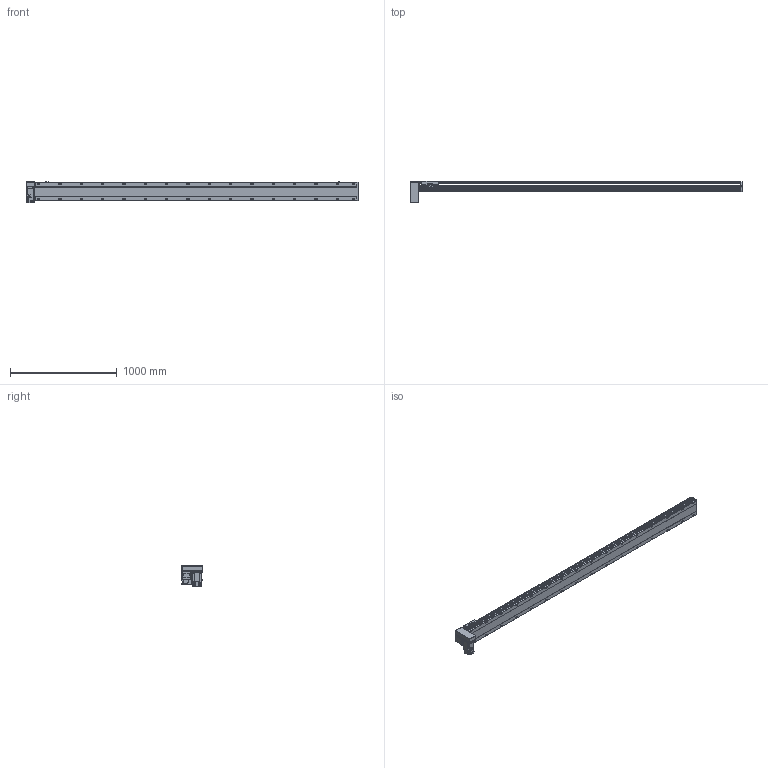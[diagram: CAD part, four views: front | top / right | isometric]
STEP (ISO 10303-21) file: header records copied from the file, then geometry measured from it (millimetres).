
FILE_DESCRIPTION(/* description */ ('STEP AP214'),/* implementation_level */ '2;1');
FILE_NAME(/* name */ 'PBS170-P40-S2750-RD-T75-C1-N(0)',/* time_stamp */ '2022-06-08T07:38:09+02:00',/* author */ ('License CC BY-ND 4.0'),/* organization */ ('CADENAS'),/* preprocessor_version */ 'ST-DEVELOPER v18.102',/* originating_system */ 'PARTsolutions',/* authorisation */ ' ');
FILE_SCHEMA (('AUTOMOTIVE_DESIGN {1 0 10303 214 3 1 1}'));
Length unit declared in the file: millimetre
Products named in the file (7): PBS170-P40-S2750-RD-T75-C1-N(0); PBS170_sensor; PBS170_plant; PBS170_sliser; T75-p1; PBS170T-RD_motors; PBS170-S2750()_body
Assembly tree (8 placements, depth 2):
  PBS170-P40-S2750-RD-T75-C1-N(0)
    PBS170_sensor  x3
    PBS170_plant
    PBS170_sliser
    T75-p1
    PBS170T-RD_motors
    PBS170-S2750()_body
Bounding box: 3113 x 201 x 205.3 mm (x, y, z)
Volume: 23460278 mm3; surface area: 2944360 mm2
Topology: 8 solids, 8 shells, 1210 faces, 3195 edges, 2082 vertices
Faces by surface type: plane 735, cylinder 403, cone 62, sphere 8, torus 2
Full cylindrical faces by diameter (mm): 3.242 x4, 4 x2, 4.4 x4, 4.5 x6, 4.917 x4, 6 x9, 6.647 x40, 7 x2, 7.5 x4, 8 x8, 8.5 x32, 10 x4, 10.5 x32, 11 x2, 30 x2, 40 x1, 70 x1
Entity records: 34782 total; most frequent: CARTESIAN_POINT 6609, DIRECTION 5860, ORIENTED_EDGE 5508, EDGE_CURVE 2754, AXIS2_PLACEMENT_3D 2077, VERTEX_POINT 1922, LINE 1706, VECTOR 1706
